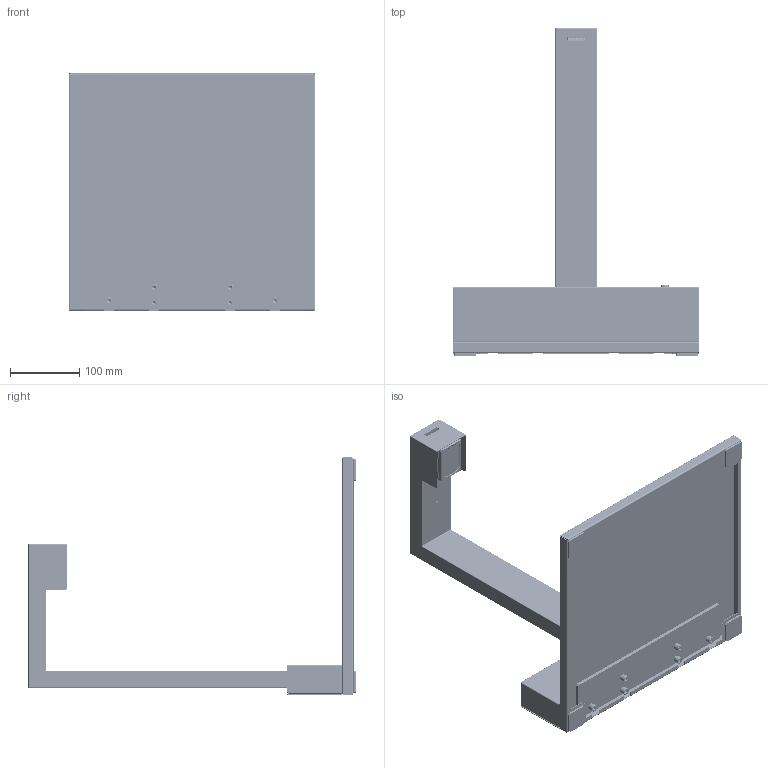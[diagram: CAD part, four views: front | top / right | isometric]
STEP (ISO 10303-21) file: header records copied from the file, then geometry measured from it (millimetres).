
FILE_DESCRIPTION((''),'2;1');
FILE_NAME('00-00_ASM_161_1_ASM','2024-11-09T14:36:57',('gengdawei'),(''),'CREO PARAMETRIC BY PTC INC, 2020044','CREO PARAMETRIC BY PTC INC, 2020044','');
FILE_SCHEMA(('CONFIG_CONTROL_DESIGN'));
Products named in the file (77): DA-11-116455_35_1; DA-11-116456_28_1; DE-17-003859_7_1; DE-11-098619_ASM_32_1_ASM; DE-11-098362_67_1; NUT-M6-GB6172_1_4_1; 8002-CLS-M3-2_8_1; DE-11-098361_ASM_54_1_ASM; DE-11-098363_41_1; DE-11-098364_27_1; DE-11-098360_ASM_70_1_ASM; 101300118_3_1; 101305097_3_1; 101302416_5_1; MV-23516REV10-102200-2024102__2; MV-23516REV10-102200-2024102__3; MV-23516REV10-102200-2024102__4; MV-23516REV10-102200-2024102__5; MV-23516REV10-102200-2024102__6; MV-23516REV10-102200-2024102__7; MV-23516REV10-102200-2024102__8; MV-23516REV10-102200-2024102__9; MV-23516REV10-102200-2024102_36; MV-23516REV10-102200-2024102_37; MV-23516REV10-102200-2024102_38; MV-23516REV10-102200-2024102_39; MV-23516REV10-102200-2024102_40; MV-23516REV10-102200-2024102_41; MV-23516REV10-102200-2024102_42; MV-23516REV10-102200-2024102_43; MV-23516REV10-102200-2024102_44; MV-23516REV10-102200-2024102_45; MV-23516REV10-102200-2024102_46; MV-23516REV10-102200-2024102_47; MV-23516REV10-102200-2024102_48; MV-23516REV10-102200-2024102_49; MV-23516REV10-102200-2024102_50; MV-23516REV10-102200-2024102_51; MV-23516REV10-102200-2024102_52; MV-23516REV10-102200-2024102_53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
Assembly tree (105 placements, depth 7):
  00-00_ASM_161_1_ASM
    DE-11-098619_ASM_32_1_ASM
      DA-11-116455_35_1
      DA-11-116456_28_1
      DE-17-003859_7_1  x4
    DE-11-098360_ASM_70_1_ASM
      DE-11-098361_ASM_54_1_ASM
        DE-11-098362_67_1
        NUT-M6-GB6172_1_4_1  x6
        8002-CLS-M3-2_8_1  x8
      DE-11-098363_41_1
      DE-11-098364_27_1
    MV_23516R10_ASM_37_1_ASM
      101300118_3_1
      101305097_3_1
      101302416_5_1
      MV-23516REV10-102200-2024102_35_ASM
        MV-23516REV10-102200-2024102__2
        MV-23516REV10-102200-2024102__3
        MV-23516REV10-102200-2024102__4
        MV-23516REV10-102200-2024102__5
        MV-23516REV10-102200-2024102__6
        MV-23516REV10-102200-2024102__7
        MV-23516REV10-102200-2024102__8
        MV-23516REV10-102200-2024102__9
        MV-23516REV10-102200-2024102_36
        MV-23516REV10-102200-2024102_37
        MV-23516REV10-102200-2024102_38
        MV-23516REV10-102200-2024102_39
        MV-23516REV10-102200-2024102_40
        MV-23516REV10-102200-2024102_41
        MV-23516REV10-102200-2024102_42
        MV-23516REV10-102200-2024102_43
        MV-23516REV10-102200-2024102_44
        MV-23516REV10-102200-2024102_45
        MV-23516REV10-102200-2024102_46
        MV-23516REV10-102200-2024102_47
        MV-23516REV10-102200-2024102_48
        MV-23516REV10-102200-2024102_49
        MV-23516REV10-102200-2024102_50
        MV-23516REV10-102200-2024102_51
        MV-23516REV10-102200-2024102_52
        MV-23516REV10-102200-2024102_53
        MV-23516REV10-102200-2024102_54
        MV-23516REV10-102200-2024102_55
        MV-23516REV10-102200-2024102_56
        MV-23516REV10-102200-2024102_57
        MV-23516REV10-102200-2024102_58
        MV-23516REV10-102200-2024102_59
        MV-23516REV10-102200-2024102_60
    DE-11-098355_24_1
    3000X0001_ASM_13_1_ASM
      DE-14-064624_15_1
      3000X_ASM_8_1_ASM
        000-00_ASM_600_ASM_4_1_ASM
          DE-20-014032_ASM_319_ASM_6_1_ASM
            DE-12-003150_73_2_1
            DE-20-014006_ASM_93_ASM_1_1_ASM
              DE-17-002006_34_2_1
              DE-12-003143_38_2_1
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Bounding box: 357 x 473.3 x 343 mm (x, y, z)
Volume: 1645357.3 mm3; surface area: 868640.3 mm2
Topology: 89 solids, 250 shells, 15059 faces, 42063 edges, 27342 vertices
Faces by surface type: plane 10113, cylinder 3448, cone 651, bspline 382, torus 234, extrusion 188, sphere 43
Entity records: 454497 total; most frequent: CARTESIAN_POINT 134495, ORIENTED_EDGE 68266, DIRECTION 63599, EDGE_CURVE 34747, VECTOR 24343, LINE 24155, VERTEX_POINT 22617, AXIS2_PLACEMENT_3D 19628
